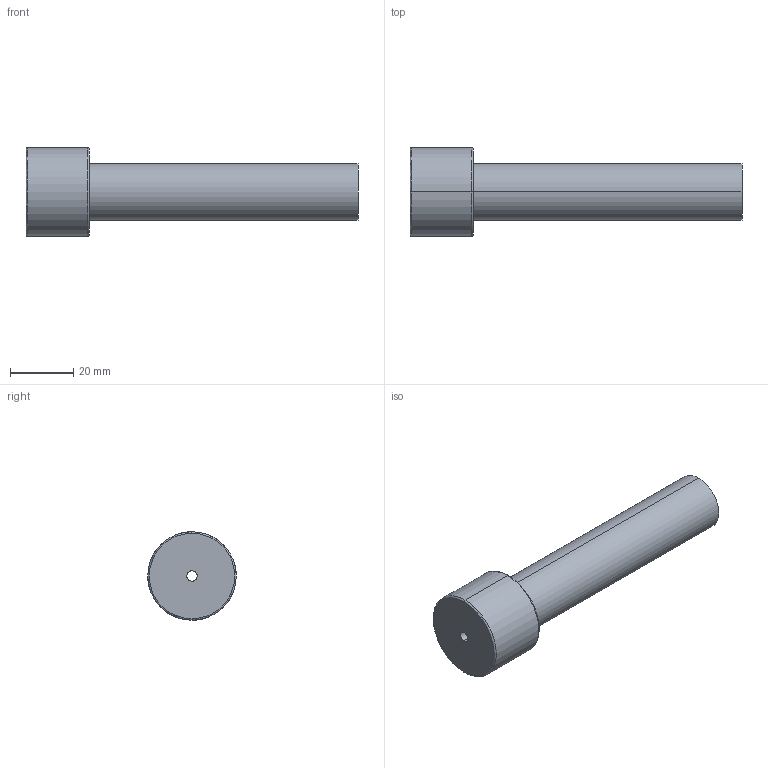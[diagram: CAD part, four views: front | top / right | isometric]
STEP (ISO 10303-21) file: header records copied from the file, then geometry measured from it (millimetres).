
FILE_DESCRIPTION(('CATIA V5 STEP Exchange'),'2;1');
FILE_NAME('C:\Users\Utente\Desktop\IO LAVORO\3D X SITO CF\X SITO\PLASTICA\3D files 367\367-18X105.stp','2021-03-24T15:44:01+00:00',('none'),('none'),'CATIA Version 5 Release 20 GA (IN-10)','CATIA V5 STEP AP203','none');
FILE_SCHEMA(('CONFIG_CONTROL_DESIGN'));
Length unit declared in the file: millimetre
Products named in the file (1): 367-18X105
Bounding box: 105 x 28 x 28 mm (x, y, z)
Volume: 30709.7 mm3; surface area: 9686.3 mm2
Topology: 1 solids, 1 shells, 13 faces, 42 edges, 32 vertices
Faces by surface type: torus 4, cylinder 4, plane 3, cone 2
Entity records: 608 total; most frequent: CARTESIAN_POINT 194, ORIENTED_EDGE 84, DIRECTION 60, AXIS2_PLACEMENT_3D 42, EDGE_CURVE 42, VERTEX_POINT 32, CIRCLE 28, EDGE_LOOP 16
